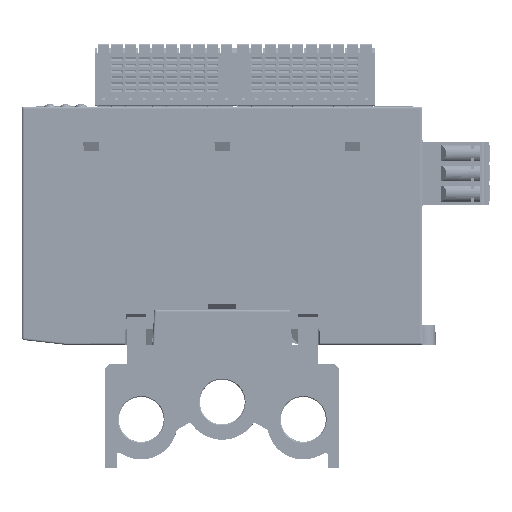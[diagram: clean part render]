
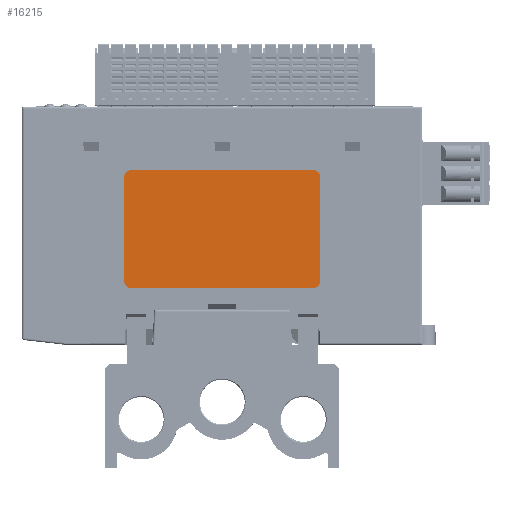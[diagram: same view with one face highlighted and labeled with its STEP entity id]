
A CAD part, front view. The second image highlights one B-rep face of the part: STEP entity #16215.
In plain terms, the highlighted planar face has unit normal (0, -1, 0).
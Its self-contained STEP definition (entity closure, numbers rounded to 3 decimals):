
#6943=FACE_OUTER_BOUND('',#70226,.T.);
#16215=ADVANCED_FACE('',(#6943),#25723,.F.);
#25723=PLANE('',#178395);
#33345=LINE('',#248308,#51317);
#33349=LINE('',#248316,#51321);
#33351=LINE('',#248320,#51323);
#33354=LINE('',#248328,#51326);
#51317=VECTOR('',#195900,1.);
#51321=VECTOR('',#195906,1.);
#51323=VECTOR('',#195910,1.);
#51326=VECTOR('',#195917,1.);
#70226=EDGE_LOOP('',(#83581,#83582,#83583,#83584,#83585,#83586,#83587,#83588));
#83581=ORIENTED_EDGE('',*,*,#149717,.F.);
#83582=ORIENTED_EDGE('',*,*,#149722,.T.);
#83583=ORIENTED_EDGE('',*,*,#149723,.F.);
#83584=ORIENTED_EDGE('',*,*,#149724,.T.);
#83585=ORIENTED_EDGE('',*,*,#149719,.F.);
#83586=ORIENTED_EDGE('',*,*,#149725,.T.);
#83587=ORIENTED_EDGE('',*,*,#149713,.F.);
#83588=ORIENTED_EDGE('',*,*,#149726,.T.);
#132699=VERTEX_POINT('',#248309);
#132700=VERTEX_POINT('',#248310);
#132701=VERTEX_POINT('',#248315);
#132702=VERTEX_POINT('',#248317);
#132703=VERTEX_POINT('',#248321);
#132704=VERTEX_POINT('',#248322);
#132705=VERTEX_POINT('',#248327);
#132706=VERTEX_POINT('',#248329);
#149713=EDGE_CURVE('',#132699,#132700,#33345,.T.);
#149717=EDGE_CURVE('',#132701,#132702,#33349,.T.);
#149719=EDGE_CURVE('',#132703,#132704,#33351,.T.);
#149722=EDGE_CURVE('',#132701,#132705,#173085,.T.);
#149723=EDGE_CURVE('',#132706,#132705,#33354,.T.);
#149724=EDGE_CURVE('',#132706,#132704,#173086,.T.);
#149725=EDGE_CURVE('',#132703,#132700,#173087,.T.);
#149726=EDGE_CURVE('',#132699,#132702,#173088,.T.);
#173085=CIRCLE('',#178391,1.8);
#173086=CIRCLE('',#178392,1.8);
#173087=CIRCLE('',#178393,1.8);
#173088=CIRCLE('',#178394,1.8);
#178391=AXIS2_PLACEMENT_3D('',#248326,#195915,#195916);
#178392=AXIS2_PLACEMENT_3D('',#248330,#195918,#195919);
#178393=AXIS2_PLACEMENT_3D('',#248331,#195920,#195921);
#178394=AXIS2_PLACEMENT_3D('',#248332,#195922,#195923);
#178395=AXIS2_PLACEMENT_3D('',#248333,#195924,#195925);
#195900=DIRECTION('',(0.,0.,-1.));
#195906=DIRECTION('',(1.,0.,0.));
#195910=DIRECTION('',(-1.,0.,0.));
#195915=DIRECTION('',(0.,-1.,0.));
#195916=DIRECTION('',(0.,0.,1.));
#195917=DIRECTION('',(0.,0.,1.));
#195918=DIRECTION('',(0.,-1.,0.));
#195919=DIRECTION('',(0.,0.,-1.));
#195920=DIRECTION('',(0.,-1.,0.));
#195921=DIRECTION('',(0.,0.,-1.));
#195922=DIRECTION('',(0.,-1.,0.));
#195923=DIRECTION('',(0.,0.,-1.));
#195924=DIRECTION('',(0.,1.,0.));
#195925=DIRECTION('',(0.,0.,-1.));
#248308=CARTESIAN_POINT('',(725.15,-402.14,34.634));
#248309=CARTESIAN_POINT('',(725.15,-402.14,47.934));
#248310=CARTESIAN_POINT('',(725.15,-402.14,21.334));
#248315=CARTESIAN_POINT('',(676.75,-402.14,49.734));
#248316=CARTESIAN_POINT('',(700.05,-402.14,49.734));
#248317=CARTESIAN_POINT('',(723.35,-402.14,49.734));
#248320=CARTESIAN_POINT('',(675.05,-402.14,19.534));
#248321=CARTESIAN_POINT('',(723.35,-402.14,19.534));
#248322=CARTESIAN_POINT('',(676.75,-402.14,19.534));
#248326=CARTESIAN_POINT('',(676.75,-402.14,47.934));
#248327=CARTESIAN_POINT('',(674.95,-402.14,47.934));
#248328=CARTESIAN_POINT('',(674.95,-402.14,34.634));
#248329=CARTESIAN_POINT('',(674.95,-402.14,21.334));
#248330=CARTESIAN_POINT('',(676.75,-402.14,21.334));
#248331=CARTESIAN_POINT('',(723.35,-402.14,21.334));
#248332=CARTESIAN_POINT('',(723.35,-402.14,47.934));
#248333=CARTESIAN_POINT('',(700.041,-402.14,23.341));
